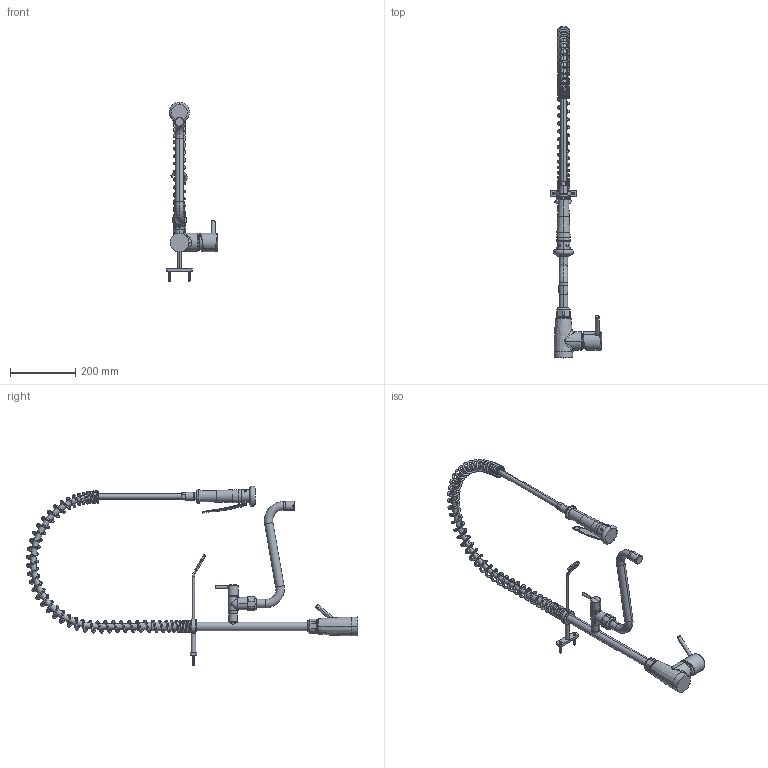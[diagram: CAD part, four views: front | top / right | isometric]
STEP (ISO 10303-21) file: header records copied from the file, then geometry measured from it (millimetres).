
FILE_DESCRIPTION((''),'2;1');
FILE_NAME('24_501_146_XXX','2012-01-03T',('HEF'),(''),'PRO/ENGINEER BY PARAMETRIC TECHNOLOGY CORPORATION, 2011080','PRO/ENGINEER BY PARAMETRIC TECHNOLOGY CORPORATION, 2011080','');
FILE_SCHEMA(('AUTOMOTIVE_DESIGN_CC2 { 1 2 10303 214 -1 1 5 2 }'));
Products named in the file (1): 24_501_146_XXX
Bounding box: 157.35 x 1020.79 x 553 mm (x, y, z)
Volume: 1875195.5 mm3; surface area: 343164.1 mm2
Topology: 1 solids, 1 shells, 617 faces, 1484 edges, 893 vertices
Faces by surface type: bspline 189, cylinder 161, plane 117, torus 95, cone 38, sphere 11, revolution 6
Entity records: 85081 total; most frequent: CARTESIAN_POINT 66458, ORIENTED_EDGE 2952, DIRECTION 2168, EDGE_CURVE 1476, FILL_AREA_STYLE_COLOUR 925, FILL_AREA_STYLE 925, SURFACE_STYLE_FILL_AREA 925, SURFACE_SIDE_STYLE 925
